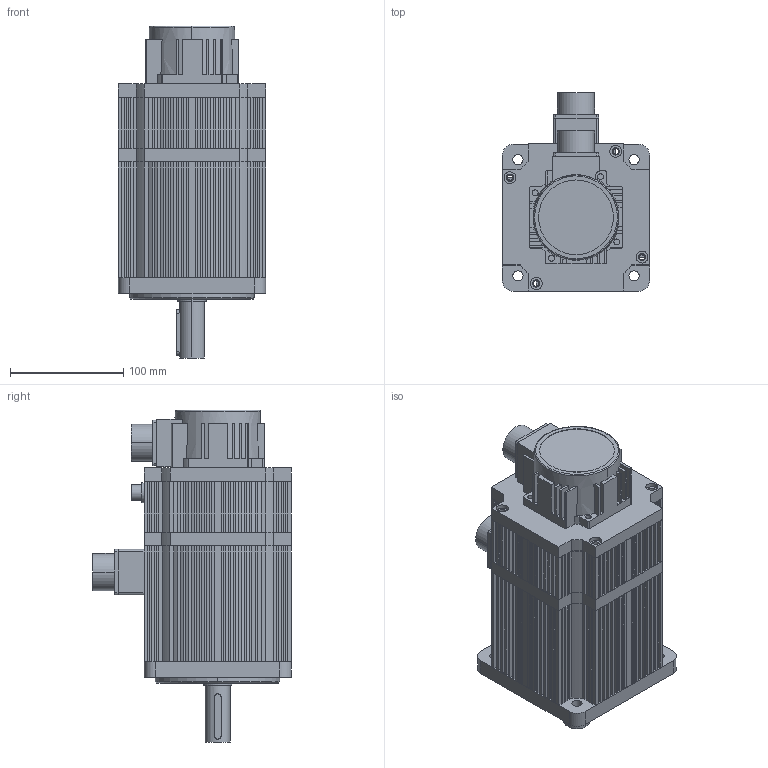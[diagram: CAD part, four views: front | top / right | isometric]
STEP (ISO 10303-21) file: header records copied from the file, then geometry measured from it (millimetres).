
FILE_DESCRIPTION (( 'STEP AP203' ), '1' );
FILE_NAME ('ASMJ-13-1525B-G342-01.STEP', '2024-04-10T02:35:13', ( 'Admin' ), ( '' ), 'SwSTEP 2.0', 'SolidWorks 2018', '' );
FILE_SCHEMA (( 'CONFIG_CONTROL_DESIGN' ));
Length unit declared in the file: millimetre
Products named in the file (1): ASMJ-13-1525B-G342-01
Bounding box: 130 x 175.3 x 293 mm (x, y, z)
Volume: 944707.9 mm3; surface area: 469852.3 mm2
Topology: 13 solids, 13 shells, 1311 faces, 3655 edges, 2376 vertices
Faces by surface type: plane 807, cylinder 434, bspline 52, cone 18
Entity records: 43931 total; most frequent: CARTESIAN_POINT 9924, ORIENTED_EDGE 7174, DIRECTION 6913, EDGE_CURVE 3587, VECTOR 2545, LINE 2545, VERTEX_POINT 2376, AXIS2_PLACEMENT_3D 2184
